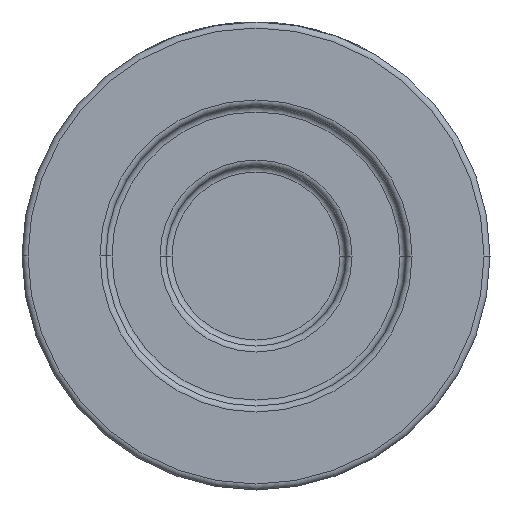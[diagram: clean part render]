
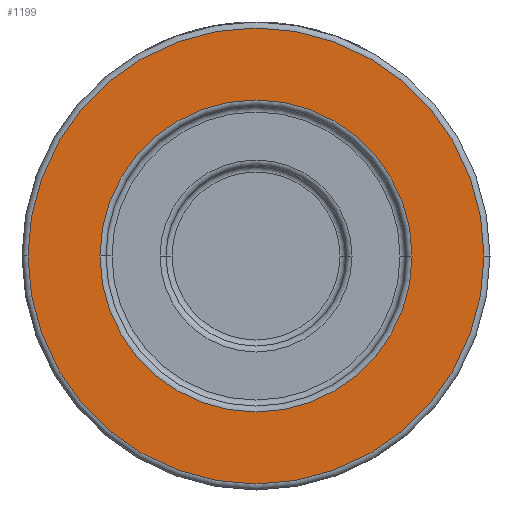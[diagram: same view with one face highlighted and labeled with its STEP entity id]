
A CAD part, front view. The second image highlights one B-rep face of the part: STEP entity #1199.
In plain terms, the highlighted planar face has unit normal (0, -1, 0).
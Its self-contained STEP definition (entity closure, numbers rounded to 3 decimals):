
#206 = CIRCLE ( 'NONE', #3394, 38. ) ;
#643 = ORIENTED_EDGE ( 'NONE', *, *, #1270, .T. ) ;
#741 = PLANE ( 'NONE',  #2416 ) ;
#765 = DIRECTION ( 'NONE',  ( 0., -1., 0. ) ) ;
#791 = DIRECTION ( 'NONE',  ( 0., -1., 0. ) ) ;
#815 = DIRECTION ( 'NONE',  ( 1., 0., 0. ) ) ;
#899 = AXIS2_PLACEMENT_3D ( 'NONE', #3127, #2698, #3790 ) ;
#949 = CARTESIAN_POINT ( 'NONE',  ( 0., -35., 0. ) ) ;
#998 = CARTESIAN_POINT ( 'NONE',  ( 38., -35., 0. ) ) ;
#1052 = CIRCLE ( 'NONE', #899, 26. ) ;
#1126 = FACE_BOUND ( 'NONE', #4499, .T. ) ;
#1199 = ADVANCED_FACE ( 'NONE', ( #1126, #4354 ), #741, .T. ) ;
#1270 = EDGE_CURVE ( 'NONE', #3468, #1294, #206, .T. ) ;
#1294 = VERTEX_POINT ( 'NONE', #2720 ) ;
#1359 = DIRECTION ( 'NONE',  ( 1., 0., 0. ) ) ;
#1474 = ORIENTED_EDGE ( 'NONE', *, *, #3495, .T. ) ;
#1483 = CARTESIAN_POINT ( 'NONE',  ( 39., -35., 0. ) ) ;
#1508 = AXIS2_PLACEMENT_3D ( 'NONE', #1557, #791, #3692 ) ;
#1534 = DIRECTION ( 'NONE',  ( 1., 0., 0. ) ) ;
#1557 = CARTESIAN_POINT ( 'NONE',  ( 0., -35., 0. ) ) ;
#1619 = CARTESIAN_POINT ( 'NONE',  ( -26., -35., 0. ) ) ;
#1639 = ORIENTED_EDGE ( 'NONE', *, *, #3314, .T. ) ;
#1683 = VERTEX_POINT ( 'NONE', #1619 ) ;
#2416 = AXIS2_PLACEMENT_3D ( 'NONE', #1483, #765, #1534 ) ;
#2428 = AXIS2_PLACEMENT_3D ( 'NONE', #949, #2505, #1359 ) ;
#2505 = DIRECTION ( 'NONE',  ( 0., 1., 0. ) ) ;
#2698 = DIRECTION ( 'NONE',  ( 0., 1., 0. ) ) ;
#2720 = CARTESIAN_POINT ( 'NONE',  ( -38., -35., 0. ) ) ;
#2909 = EDGE_CURVE ( 'NONE', #1294, #3468, #4610, .T. ) ;
#2998 = CARTESIAN_POINT ( 'NONE',  ( 26., -35., 0. ) ) ;
#3047 = EDGE_LOOP ( 'NONE', ( #643, #4554 ) ) ;
#3127 = CARTESIAN_POINT ( 'NONE',  ( 0., -35., 0. ) ) ;
#3314 = EDGE_CURVE ( 'NONE', #1683, #4649, #1052, .T. ) ;
#3394 = AXIS2_PLACEMENT_3D ( 'NONE', #4443, #4050, #815 ) ;
#3468 = VERTEX_POINT ( 'NONE', #998 ) ;
#3495 = EDGE_CURVE ( 'NONE', #4649, #1683, #4463, .T. ) ;
#3692 = DIRECTION ( 'NONE',  ( 1., 0., 0. ) ) ;
#3790 = DIRECTION ( 'NONE',  ( 1., 0., 0. ) ) ;
#4050 = DIRECTION ( 'NONE',  ( 0., -1., 0. ) ) ;
#4354 = FACE_OUTER_BOUND ( 'NONE', #3047, .T. ) ;
#4443 = CARTESIAN_POINT ( 'NONE',  ( 0., -35., 0. ) ) ;
#4463 = CIRCLE ( 'NONE', #2428, 26. ) ;
#4499 = EDGE_LOOP ( 'NONE', ( #1474, #1639 ) ) ;
#4554 = ORIENTED_EDGE ( 'NONE', *, *, #2909, .T. ) ;
#4610 = CIRCLE ( 'NONE', #1508, 38. ) ;
#4649 = VERTEX_POINT ( 'NONE', #2998 ) ;
